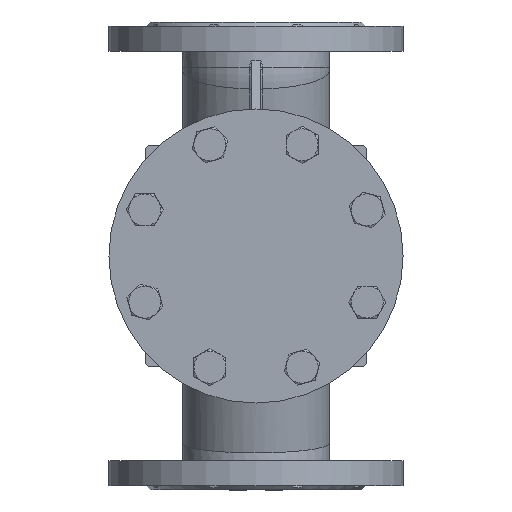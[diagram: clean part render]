
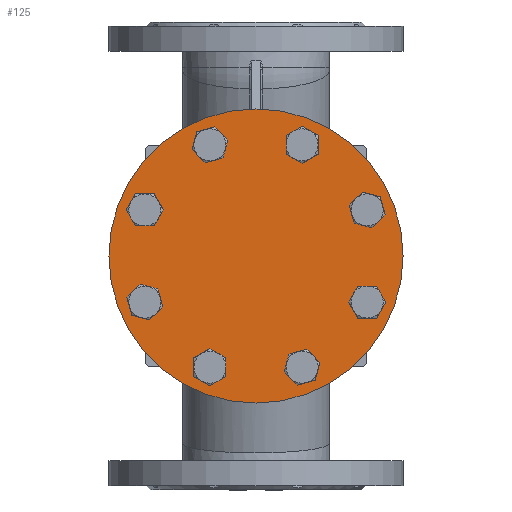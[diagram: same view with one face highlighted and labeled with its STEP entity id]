
A CAD part, front view. The second image highlights one B-rep face of the part: STEP entity #125.
In plain terms, the highlighted planar face has unit normal (0, -1, 0).
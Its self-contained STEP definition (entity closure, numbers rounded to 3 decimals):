
#125=ADVANCED_FACE('',(#9959,#9961,#9963,#9965,#9967,#9969,#9971,#9973,#9975),#9977,
.F.);
#9959=FACE_BOUND('',#9960,.T.);
#9960=EDGE_LOOP('',(#23460));
#9961=FACE_BOUND('',#9962,.T.);
#9962=EDGE_LOOP('',(#23461));
#9963=FACE_BOUND('',#9964,.T.);
#9964=EDGE_LOOP('',(#23462));
#9965=FACE_BOUND('',#9966,.T.);
#9966=EDGE_LOOP('',(#23463));
#9967=FACE_BOUND('',#9968,.T.);
#9968=EDGE_LOOP('',(#23464));
#9969=FACE_BOUND('',#9970,.T.);
#9970=EDGE_LOOP('',(#23465));
#9971=FACE_BOUND('',#9972,.T.);
#9972=EDGE_LOOP('',(#23466));
#9973=FACE_BOUND('',#9974,.T.);
#9974=EDGE_LOOP('',(#23467));
#9975=FACE_BOUND('',#9976,.T.);
#9976=EDGE_LOOP('',(#23468));
#9977=PLANE('',#9978);
#9978=AXIS2_PLACEMENT_3D('',#9979,#9980,#9981);
#9979=CARTESIAN_POINT('',(0.,-186.,0.));
#9980=DIRECTION('',(0.,1.,0.));
#9981=DIRECTION('',(1.,0.,0.));
#23460=ORIENTED_EDGE('',*,*,#31276,.F.);
#23461=ORIENTED_EDGE('',*,*,#31277,.F.);
#23462=ORIENTED_EDGE('',*,*,#31278,.F.);
#23463=ORIENTED_EDGE('',*,*,#31279,.F.);
#23464=ORIENTED_EDGE('',*,*,#31280,.F.);
#23465=ORIENTED_EDGE('',*,*,#31281,.F.);
#23466=ORIENTED_EDGE('',*,*,#31282,.F.);
#23467=ORIENTED_EDGE('',*,*,#31283,.F.);
#23468=ORIENTED_EDGE('',*,*,#31284,.F.);
#31276=EDGE_CURVE('',#34941,#34941,#34942,.T.);
#31277=EDGE_CURVE('',#34943,#34943,#34944,.T.);
#31278=EDGE_CURVE('',#34945,#34945,#34946,.T.);
#31279=EDGE_CURVE('',#34947,#34947,#34948,.T.);
#31280=EDGE_CURVE('',#34949,#34949,#34950,.T.);
#31281=EDGE_CURVE('',#34951,#34951,#34952,.T.);
#31282=EDGE_CURVE('',#34953,#34953,#34954,.T.);
#31283=EDGE_CURVE('',#34955,#34955,#34956,.T.);
#31284=EDGE_CURVE('',#34957,#34957,#34958,.T.);
#34941=VERTEX_POINT('',#41020);
#34942=CIRCLE('',#41021,110.);
#34943=VERTEX_POINT('',#41025);
#34944=CIRCLE('',#41026,12.);
#34945=VERTEX_POINT('',#41030);
#34946=CIRCLE('',#41031,12.);
#34947=VERTEX_POINT('',#41035);
#34948=CIRCLE('',#41036,12.);
#34949=VERTEX_POINT('',#41040);
#34950=CIRCLE('',#41041,12.);
#34951=VERTEX_POINT('',#41045);
#34952=CIRCLE('',#41046,12.);
#34953=VERTEX_POINT('',#41050);
#34954=CIRCLE('',#41051,12.);
#34955=VERTEX_POINT('',#41055);
#34956=CIRCLE('',#41056,12.);
#34957=VERTEX_POINT('',#41060);
#34958=CIRCLE('',#41061,12.);
#41020=CARTESIAN_POINT('',(110.,-186.,0.));
#41021=AXIS2_PLACEMENT_3D('',#41022,#41023,#41024);
#41022=CARTESIAN_POINT('',(0.,-186.,0.));
#41023=DIRECTION('',(0.,1.,0.));
#41024=DIRECTION('',(1.,0.,0.));
#41025=CARTESIAN_POINT('',(-74.664,-186.,-42.927));
#41026=AXIS2_PLACEMENT_3D('',#41027,#41028,#41029);
#41027=CARTESIAN_POINT('',(-83.149,-186.,-34.442));
#41028=DIRECTION('',(0.,-1.,0.));
#41029=DIRECTION('',(0.707,0.,-0.707));
#41030=CARTESIAN_POINT('',(-42.927,-186.,74.664));
#41031=AXIS2_PLACEMENT_3D('',#41032,#41033,#41034);
#41032=CARTESIAN_POINT('',(-34.442,-186.,83.149));
#41033=DIRECTION('',(0.,-1.,0.));
#41034=DIRECTION('',(-0.707,0.,-0.707));
#41035=CARTESIAN_POINT('',(74.664,-186.,42.927));
#41036=AXIS2_PLACEMENT_3D('',#41037,#41038,#41039);
#41037=CARTESIAN_POINT('',(83.149,-186.,34.442));
#41038=DIRECTION('',(0.,-1.,0.));
#41039=DIRECTION('',(-0.707,0.,0.707));
#41040=CARTESIAN_POINT('',(42.927,-186.,-74.664));
#41041=AXIS2_PLACEMENT_3D('',#41042,#41043,#41044);
#41042=CARTESIAN_POINT('',(34.442,-186.,-83.149));
#41043=DIRECTION('',(0.,-1.,0.));
#41044=DIRECTION('',(0.707,0.,0.707));
#41045=CARTESIAN_POINT('',(-22.442,-186.,-83.149));
#41046=AXIS2_PLACEMENT_3D('',#41047,#41048,#41049);
#41047=CARTESIAN_POINT('',(-34.442,-186.,-83.149));
#41048=DIRECTION('',(0.,-1.,0.));
#41049=DIRECTION('',(1.,0.,0.));
#41050=CARTESIAN_POINT('',(-83.149,-186.,22.442));
#41051=AXIS2_PLACEMENT_3D('',#41052,#41053,#41054);
#41052=CARTESIAN_POINT('',(-83.149,-186.,34.442));
#41053=DIRECTION('',(0.,-1.,0.));
#41054=DIRECTION('',(0.,0.,-1.));
#41055=CARTESIAN_POINT('',(22.442,-186.,83.149));
#41056=AXIS2_PLACEMENT_3D('',#41057,#41058,#41059);
#41057=CARTESIAN_POINT('',(34.442,-186.,83.149));
#41058=DIRECTION('',(0.,-1.,0.));
#41059=DIRECTION('',(-1.,0.,0.));
#41060=CARTESIAN_POINT('',(83.149,-186.,-22.442));
#41061=AXIS2_PLACEMENT_3D('',#41062,#41063,#41064);
#41062=CARTESIAN_POINT('',(83.149,-186.,-34.442));
#41063=DIRECTION('',(0.,-1.,0.));
#41064=DIRECTION('',(0.,0.,1.));
